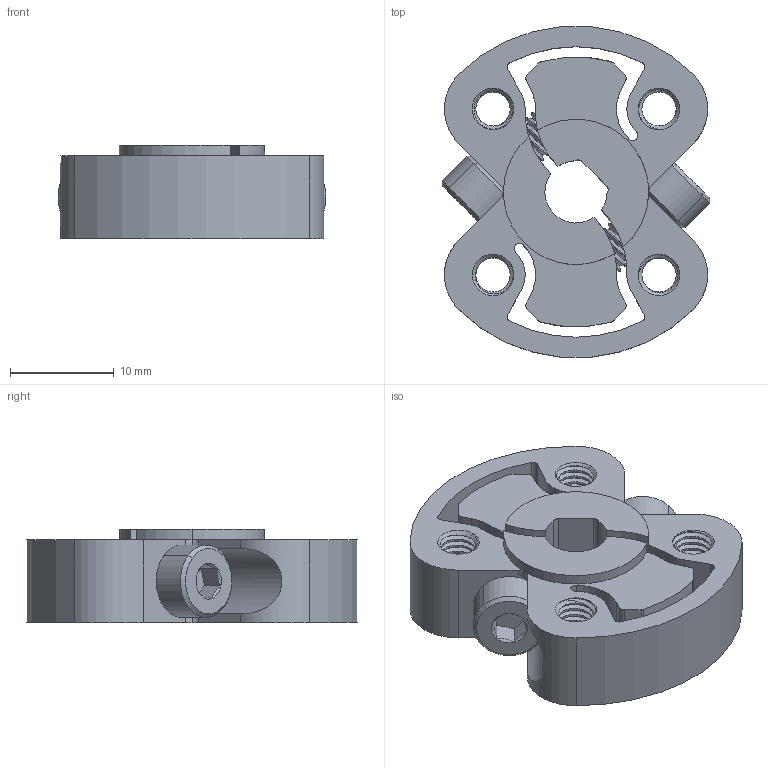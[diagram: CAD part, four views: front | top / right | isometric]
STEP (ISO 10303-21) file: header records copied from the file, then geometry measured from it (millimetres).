
FILE_DESCRIPTION (( 'STEP AP203' ), '1' );
FILE_NAME ('1309-0016-1006 assembly.STEP', '2019-09-10T21:32:29', ( '' ), ( '' ), 'SwSTEP 2.0', 'SolidWorks 2016', '' );
FILE_SCHEMA (( 'CONFIG_CONTROL_DESIGN' ));
Length unit declared in the file: millimetre
Products named in the file (3): 1309-0016-1006 assembly; 1309-0016-1006; 2800-0004-0014_90128A207
Assembly tree (3 placements, depth 2):
  1309-0016-1006 assembly
    1309-0016-1006
    2800-0004-0014_90128A207  x2
Bounding box: 25.79 x 31.88 x 9 mm (x, y, z)
Volume: 4222.1 mm3; surface area: 4896.1 mm2
Topology: 3 solids, 3 shells, 706 faces, 2045 edges, 1346 vertices
Faces by surface type: cylinder 583, cone 49, plane 44, bspline 30
Entity records: 53485 total; most frequent: CARTESIAN_POINT 40010, ORIENTED_EDGE 3500, DIRECTION 2090, EDGE_CURVE 1750, VERTEX_POINT 1155, AXIS2_PLACEMENT_3D 778, EDGE_LOOP 615, FACE_OUTER_BOUND 598
